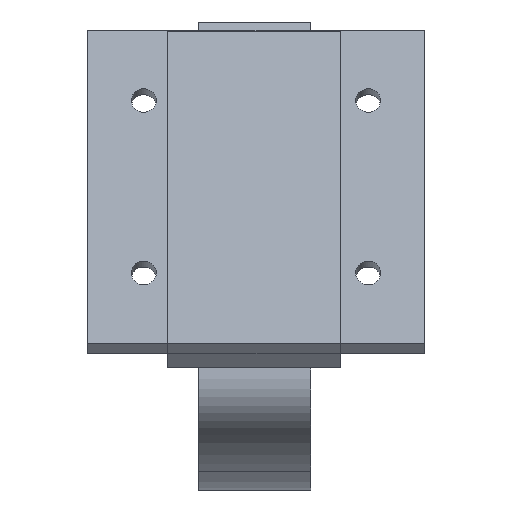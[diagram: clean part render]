
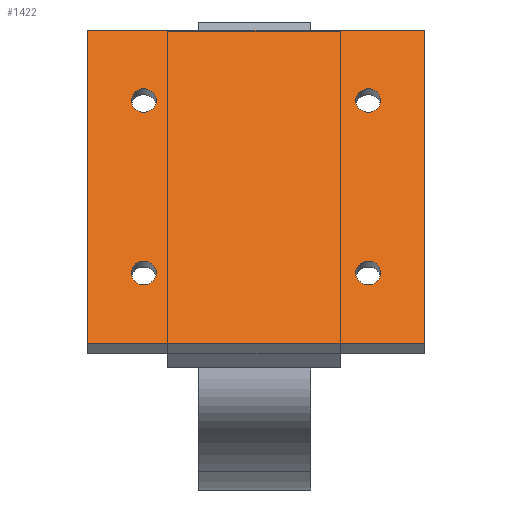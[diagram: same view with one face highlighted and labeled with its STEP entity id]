
A CAD part, top view. The second image highlights one B-rep face of the part: STEP entity #1422.
In plain terms, the highlighted planar face has unit normal (0, 0.336, 0.942).
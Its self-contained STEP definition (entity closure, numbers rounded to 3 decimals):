
#79=FACE_BOUND('',#200,.T.);
#80=FACE_BOUND('',#201,.T.);
#81=FACE_BOUND('',#202,.T.);
#82=FACE_BOUND('',#203,.T.);
#114=FACE_OUTER_BOUND('',#199,.T.);
#199=EDGE_LOOP('',(#1096,#1097,#1098,#1099));
#200=EDGE_LOOP('',(#1100));
#201=EDGE_LOOP('',(#1101));
#202=EDGE_LOOP('',(#1102));
#203=EDGE_LOOP('',(#1103));
#277=CIRCLE('',#1565,2.);
#280=CIRCLE('',#1570,2.);
#283=CIRCLE('',#1575,2.);
#286=CIRCLE('',#1580,2.);
#328=LINE('',#2300,#489);
#330=LINE('',#2304,#491);
#332=LINE('',#2308,#493);
#334=LINE('',#2311,#495);
#489=VECTOR('',#1806,10.);
#491=VECTOR('',#1810,10.);
#493=VECTOR('',#1814,10.);
#495=VECTOR('',#1818,10.);
#651=VERTEX_POINT('',#2263);
#654=VERTEX_POINT('',#2273);
#657=VERTEX_POINT('',#2283);
#660=VERTEX_POINT('',#2293);
#661=VERTEX_POINT('',#2297);
#662=VERTEX_POINT('',#2299);
#663=VERTEX_POINT('',#2303);
#664=VERTEX_POINT('',#2307);
#798=EDGE_CURVE('',#651,#651,#277,.T.);
#803=EDGE_CURVE('',#654,#654,#280,.T.);
#808=EDGE_CURVE('',#657,#657,#283,.T.);
#813=EDGE_CURVE('',#660,#660,#286,.T.);
#816=EDGE_CURVE('',#662,#661,#328,.T.);
#818=EDGE_CURVE('',#663,#662,#330,.T.);
#820=EDGE_CURVE('',#664,#663,#332,.T.);
#822=EDGE_CURVE('',#661,#664,#334,.T.);
#1096=ORIENTED_EDGE('',*,*,#822,.T.);
#1097=ORIENTED_EDGE('',*,*,#820,.T.);
#1098=ORIENTED_EDGE('',*,*,#818,.T.);
#1099=ORIENTED_EDGE('',*,*,#816,.T.);
#1100=ORIENTED_EDGE('',*,*,#803,.T.);
#1101=ORIENTED_EDGE('',*,*,#798,.T.);
#1102=ORIENTED_EDGE('',*,*,#808,.T.);
#1103=ORIENTED_EDGE('',*,*,#813,.T.);
#1343=PLANE('',#1585);
#1422=ADVANCED_FACE('',(#114,#79,#80,#81,#82),#1343,.T.);
#1565=AXIS2_PLACEMENT_3D('',#2264,#1764,#1765);
#1570=AXIS2_PLACEMENT_3D('',#2274,#1776,#1777);
#1575=AXIS2_PLACEMENT_3D('',#2284,#1788,#1789);
#1580=AXIS2_PLACEMENT_3D('',#2294,#1800,#1801);
#1585=AXIS2_PLACEMENT_3D('',#2312,#1819,#1820);
#1764=DIRECTION('center_axis',(0.,-0.336,-0.942));
#1765=DIRECTION('ref_axis',(1.,0.,0.));
#1776=DIRECTION('center_axis',(0.,-0.336,-0.942));
#1777=DIRECTION('ref_axis',(1.,0.,0.));
#1788=DIRECTION('center_axis',(0.,-0.336,-0.942));
#1789=DIRECTION('ref_axis',(1.,0.,0.));
#1800=DIRECTION('center_axis',(0.,-0.336,-0.942));
#1801=DIRECTION('ref_axis',(1.,0.,0.));
#1806=DIRECTION('',(0.,0.942,-0.336));
#1810=DIRECTION('',(1.,0.,0.));
#1814=DIRECTION('',(0.,-0.942,0.336));
#1818=DIRECTION('',(-1.,0.,0.));
#1819=DIRECTION('center_axis',(0.,0.336,0.942));
#1820=DIRECTION('ref_axis',(1.,0.,0.));
#2263=CARTESIAN_POINT('',(25.2,34.012,86.711));
#2264=CARTESIAN_POINT('Origin',(27.2,34.012,86.711));
#2273=CARTESIAN_POINT('',(25.2,61.677,76.831));
#2274=CARTESIAN_POINT('Origin',(27.2,61.677,76.831));
#2283=CARTESIAN_POINT('',(-10.8,34.012,86.711));
#2284=CARTESIAN_POINT('Origin',(-8.8,34.012,86.711));
#2293=CARTESIAN_POINT('',(-10.8,61.677,76.831));
#2294=CARTESIAN_POINT('Origin',(-8.8,61.677,76.831));
#2297=CARTESIAN_POINT('',(36.2,72.977,72.795));
#2299=CARTESIAN_POINT('',(36.2,22.711,90.747));
#2300=CARTESIAN_POINT('',(36.2,72.977,72.795));
#2303=CARTESIAN_POINT('',(-17.8,22.711,90.747));
#2304=CARTESIAN_POINT('',(18.2,22.711,90.747));
#2307=CARTESIAN_POINT('',(-17.8,72.977,72.795));
#2308=CARTESIAN_POINT('',(-17.8,72.977,72.795));
#2311=CARTESIAN_POINT('',(18.2,72.977,72.795));
#2312=CARTESIAN_POINT('Origin',(9.2,47.844,81.771));
